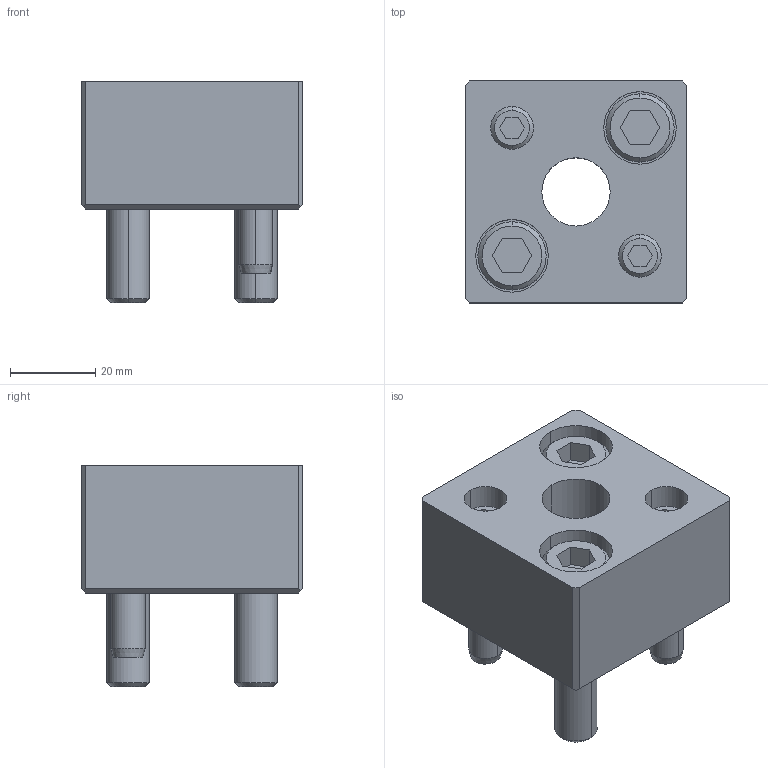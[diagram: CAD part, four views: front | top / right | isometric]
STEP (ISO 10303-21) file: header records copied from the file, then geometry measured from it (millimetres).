
FILE_DESCRIPTION(/* description */ (''),/* implementation_level */ '2;1');
FILE_NAME(/* name */ '3d_asar16_03220_r00.stp',/* time_stamp */ '2011-01-10T14:17:36+09:00',/* author */ ('MISUMI'),/* organization */ (''),/* preprocessor_version */ 'ST-DEVELOPER v11',/* originating_system */ 'UGS - NX 5.0',/* authorisation */ '');
FILE_SCHEMA (('CONFIG_CONTROL_DESIGN'));
Length unit declared in the file: millimetre
Products named in the file (1): 3d_asar16_03220_r00
Bounding box: 52 x 52 x 52 mm (x, y, z)
Volume: 74369.3 mm3; surface area: 23809.5 mm2
Topology: 7 solids, 7 shells, 139 faces, 306 edges, 196 vertices
Faces by surface type: plane 67, cylinder 46, cone 26
Entity records: 3950 total; most frequent: DIRECTION 698, CARTESIAN_POINT 684, ORIENTED_EDGE 612, EDGE_CURVE 306, AXIS2_PLACEMENT_3D 258, VERTEX_POINT 196, LINE 182, VECTOR 182
